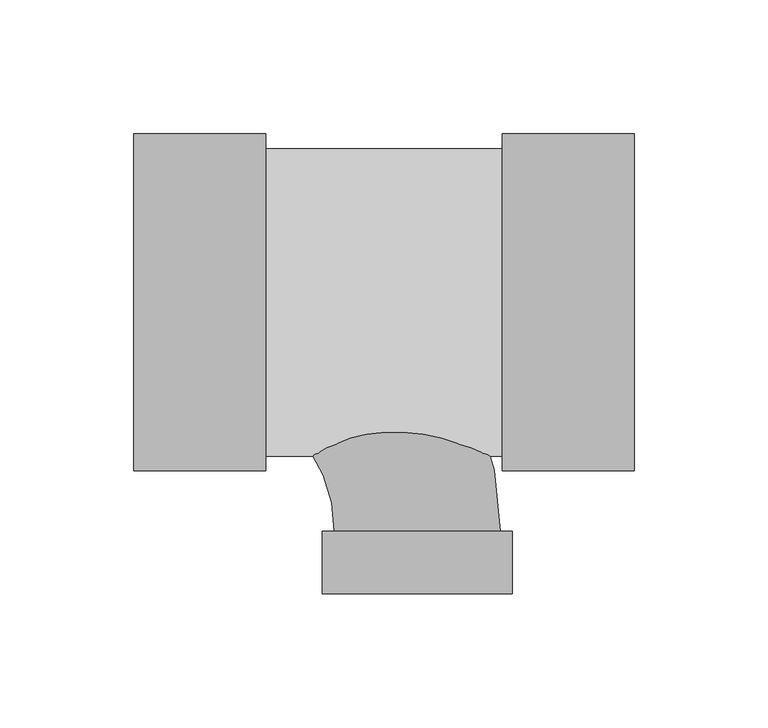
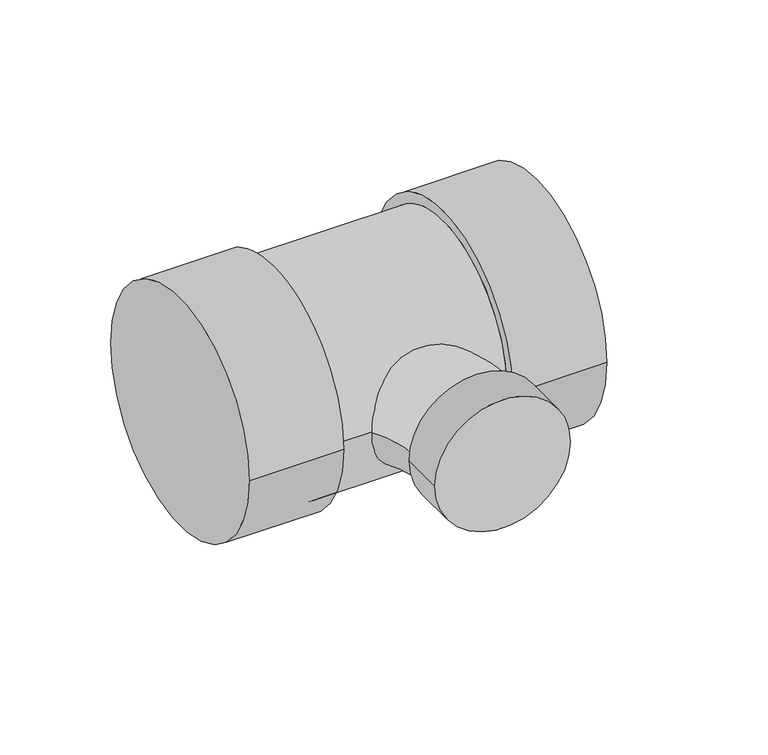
"""IFC4 building model written with IfcOpenShell, lengths in millimetres: pipe fitting geometry, M_Sanitario con te de reducción - PVC - Serie 40 - DWV : Estándar."""

from ifc_helpers import new_model, si_unit, point, frame, origin, place, context, project, spatial, circle_curve, ellipse_curve, trimmed, source, transform, mapped, element, save
from ifc_brep_helpers import plane_surface, cylinder_surface, revolved_surface, advanced_brep


def pipe_fitting_f7ed332b(model_context):
    return source(origin(), model_context, "Body", "AdvancedBrep", [
        advanced_brep(
        [(31.677229, -62.8511094, 0.0), (31.677229, 62.8511094, 0.0), (31.677229, -57.3960625, 0.0), (31.677229, 57.3960625, 0.0), (80.9135415, -62.8511094, 0.0), (80.9135415, 62.8511094, 0.0), (-56.5584022, 57.3960625, 0.0), (-56.5584022, -57.3960625, 0.0), (-105.7947148, -62.8511094, 0.0), (-105.7947147, 62.8511094, 0.0), (-56.5584023, -62.8511094, 0.0), (-56.5584022, 62.8511094, 0.0)],
        [
            (0, 1, circle_curve(frame((31.677229, 0.0, 0.0), z_axis=(-1.0, 0.0, 0.0), x_axis=(0.0, 1.0, 0.0)), 62.8511094)),
            (1, 0, circle_curve(frame((31.677229, 0.0, 0.0), z_axis=(-1.0, 0.0, 0.0), x_axis=(0.0, 1.0, 0.0)), 62.8511094)),
            (2, 3, circle_curve(frame((31.677229, 0.0, 0.0), z_axis=(1.0, 0.0, 0.0), x_axis=(0.0, 0.0, -1.0)), 57.3960625)),
            (3, 2, circle_curve(frame((31.677229, 0.0, 0.0), z_axis=(1.0, 0.0, 0.0), x_axis=(0.0, 0.0, 1.0)), 57.3960625)),
            (4, 5, circle_curve(frame((80.9135415, 0.0, 0.0), z_axis=(1.0, 0.0, 0.0), x_axis=(0.0, 1.0, 0.0)), 62.8511094)),
            (5, 4, circle_curve(frame((80.9135415, 0.0, 0.0), z_axis=(1.0, 0.0, 0.0), x_axis=(0.0, 1.0, 0.0)), 62.8511094)),
            (0, 4),
            (5, 1),
            (6, 3),
            (2, 7),
            (7, 6, circle_curve(frame((-56.5584023, 0.0, 0.0), z_axis=(1.0, 0.0, 0.0), x_axis=(0.0, 0.0, -1.0)), 57.3960625)),
            (6, 7, circle_curve(frame((-56.5584022, 0.0, 0.0), z_axis=(1.0, 0.0, 0.0), x_axis=(0.0, 0.0, 1.0)), 57.3960625)),
            (8, 9, circle_curve(frame((-105.7947147, 0.0, 0.0), z_axis=(-1.0, 0.0, 0.0), x_axis=(0.0, 1.0, 0.0)), 62.8511094)),
            (9, 8, circle_curve(frame((-105.7947147, 0.0, 0.0), z_axis=(-1.0, 0.0, 0.0), x_axis=(0.0, 1.0, 0.0)), 62.8511094)),
            (10, 11, circle_curve(frame((-56.5584022, 0.0, 0.0), z_axis=(1.0, 0.0, 0.0), x_axis=(0.0, 1.0, 0.0)), 62.8511094)),
            (11, 10, circle_curve(frame((-56.5584022, 0.0, 0.0), z_axis=(1.0, 0.0, 0.0), x_axis=(0.0, 1.0, 0.0)), 62.8511094)),
            (8, 10),
            (11, 9),
        ],
        [
            plane_surface(frame((31.677229, 0.0, 0.0), z_axis=(-1.0, 0.0, 0.0), x_axis=(0.0, 0.0, 1.0))),
            plane_surface(frame((80.9135415, 0.0, 0.0), z_axis=(1.0, 0.0, 0.0), x_axis=(0.0, 0.0, 1.0))),
            cylinder_surface(frame((31.677229, 0.0, 0.0), z_axis=(-1.0, 0.0, 0.0), x_axis=(0.0, 1.0, 0.0)), 62.8511094),
            cylinder_surface(frame((-56.5584022, 0.0, 0.0), z_axis=(1.0, 0.0, 0.0), x_axis=(0.0, 0.0, -1.0)), 57.3960625),
            cylinder_surface(frame((-56.5584022, 0.0, 0.0), z_axis=(1.0, 0.0, 0.0), x_axis=(0.0, 0.0, 1.0)), 57.3960625),
            plane_surface(frame((-105.7947147, 0.0, 0.0), z_axis=(-1.0, 0.0, 0.0), x_axis=(0.0, 0.0, 1.0))),
            plane_surface(frame((-56.5584022, 0.0, 0.0), z_axis=(1.0, 0.0, 0.0), x_axis=(0.0, 0.0, 1.0))),
            cylinder_surface(frame((-105.7947147, 0.0, 0.0), z_axis=(-1.0, 0.0, 0.0), x_axis=(0.0, 1.0, 0.0)), 62.8511094),
        ],
        [
            (0, [[1, 2], [3, 4]]),
            (1, [[5, 6]]),
            (2, [[-1, 7, -6, 8]]),
            (2, [[-2, -8, -5, -7]]),
            (3, [[9, -3, 10, 11]]),
            (4, [[-9, 12, -10, -4]]),
            (5, [[13, 14]]),
            (6, [[15, 16], [-11, -12]]),
            (7, [[-13, 17, -16, 18]]),
            (7, [[-14, -18, -15, -17]]),
        ],
    ),
        advanced_brep(
        [(-35.4191094, -85.3876563, 0.0), (35.4191094, -85.3876563, 0.0), (30.9800625, -85.3876563, 0.0), (-30.9800625, -85.3876563, 0.0), (-35.4191094, -108.7159688, 0.0), (35.4191094, -108.7159688, 0.0), (-85.3876562, -30.9800625, 0.0), (-85.3876562, 30.9800625, 0.0)],
        [
            (0, 1, circle_curve(frame((0.0, -85.3876563, 0.0), z_axis=(0.0, 1.0, 0.0), x_axis=(1.0, 0.0, 0.0)), 35.4191094)),
            (1, 0, circle_curve(frame((0.0, -85.3876563, 0.0), z_axis=(0.0, 1.0, 0.0), x_axis=(1.0, 0.0, 0.0)), 35.4191094)),
            (2, 3, circle_curve(frame((0.0, -85.3876563, 0.0), z_axis=(0.0, -1.0, 0.0), x_axis=(1.0, 0.0, 0.0)), 30.9800625)),
            (3, 2, circle_curve(frame((0.0, -85.3876563, 0.0), z_axis=(0.0, -1.0, 0.0), x_axis=(1.0, 0.0, 0.0)), 30.9800625)),
            (4, 5, circle_curve(frame((0.0, -108.7159688, 0.0), z_axis=(0.0, -1.0, 0.0), x_axis=(1.0, 0.0, 0.0)), 35.4191094)),
            (5, 4, circle_curve(frame((0.0, -108.7159688, 0.0), z_axis=(0.0, -1.0, 0.0), x_axis=(1.0, 0.0, 0.0)), 35.4191094)),
            (0, 4),
            (5, 1),
            (6, 7, circle_curve(frame((-85.3876562, 0.0, 0.0), z_axis=(-1.0, 0.0, 0.0), x_axis=(0.0, 1.0, 0.0)), 30.9800625)),
            (7, 6, circle_curve(frame((-85.3876562, 0.0, 0.0), z_axis=(-1.0, 0.0, 0.0), x_axis=(0.0, 1.0, 0.0)), 30.9800625)),
            (6, 3, circle_curve(frame((-85.3876562, -85.3876563, 0.0), z_axis=(0.0, 0.0, -1.0), x_axis=(0.0, 1.0, 0.0)), 54.4075938)),
            (2, 7, circle_curve(frame((-85.3876562, -85.3876563, 0.0), z_axis=(0.0, 0.0, 1.0), x_axis=(0.0, 1.0, 0.0)), 116.3677188)),
        ],
        [
            plane_surface(frame((0.0, -85.3876563, 0.0), z_axis=(0.0, 1.0, 0.0), x_axis=(0.0, 0.0, 1.0))),
            plane_surface(frame((0.0, -108.7159688, 0.0), z_axis=(0.0, -1.0, 0.0), x_axis=(0.0, 0.0, 1.0))),
            cylinder_surface(frame((0.0, -85.3876563, 0.0), z_axis=(0.0, 1.0, 0.0), x_axis=(1.0, 0.0, 0.0)), 35.4191094),
            plane_surface(frame((-85.3876562, 0.0, 0.0), z_axis=(-1.0, 0.0, 0.0), x_axis=(0.0, 0.0, 1.0))),
            revolved_surface(trimmed(ellipse_curve(frame((-85.3876562, 0.0, 0.0), z_axis=(-1.0, 0.0, 0.0), x_axis=(0.0, 1.0, 0.0)), 30.9800625, 30.9800625), [point((-85.3876562, -30.9800625, 0.0))], [point((-85.3876562, 30.9800625, 0.0))], True, "CARTESIAN"), (-85.3876562, -85.3876563, 0.0), (0.0, 0.0, -1.0)),
            revolved_surface(trimmed(ellipse_curve(frame((-85.3876562, 0.0, 0.0), z_axis=(-1.0, 0.0, 0.0), x_axis=(0.0, 1.0, 0.0)), 30.9800625, 30.9800625), [point((-85.3876562, 30.9800625, 0.0))], [point((-85.3876562, -30.9800625, 0.0))], True, "CARTESIAN"), (-85.3876562, -85.3876563, 0.0), (0.0, 0.0, -1.0)),
        ],
        [
            (0, [[1, 2], [3, 4]]),
            (1, [[5, 6]]),
            (2, [[-1, 7, -6, 8]]),
            (2, [[-2, -8, -5, -7]]),
            (3, [[9, 10]]),
            (4, [[-9, 11, -3, 12]]),
            (5, [[-10, -12, -4, -11]]),
        ],
    ),
    ])


if __name__ == "__main__":
    model = new_model("IFC4")
    model_context = context("Model", 3, world=origin())
    ifc_project = project(units=[si_unit("LENGTHUNIT", "METRE", prefix="MILLI")], contexts=[model_context])
    site = spatial("IfcSite", under=ifc_project)
    building = spatial("IfcBuilding", under=site)
    placement = place(None, origin())
    pipe_fitting_shape = pipe_fitting_f7ed332b(model_context)
    element("IfcPipeFitting", 1, ObjectType="M_Sanitario con te de reducción - PVC - Serie 40 - DWV : Estándar", at=placement, inside=building, context=model_context, shape_type="MappedRepresentation", body=[
        mapped(pipe_fitting_shape, transform((0.0, 0.0, 0.0), x_axis=(1.0, 0.0, 0.0), y_axis=(0.0, 1.0, 0.0), z_axis=(0.0, 0.0, 1.0))),
    ])
    save(model, "model.ifc")
